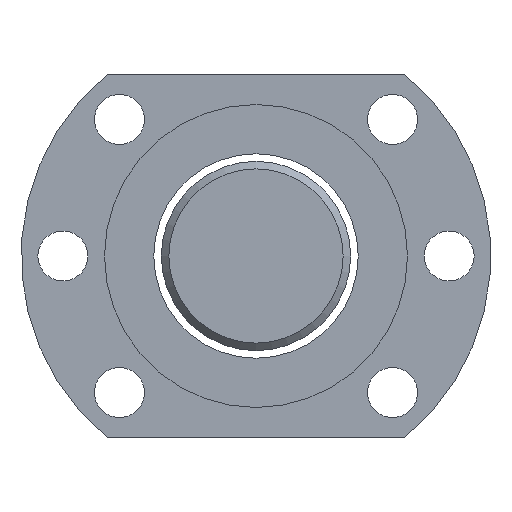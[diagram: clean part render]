
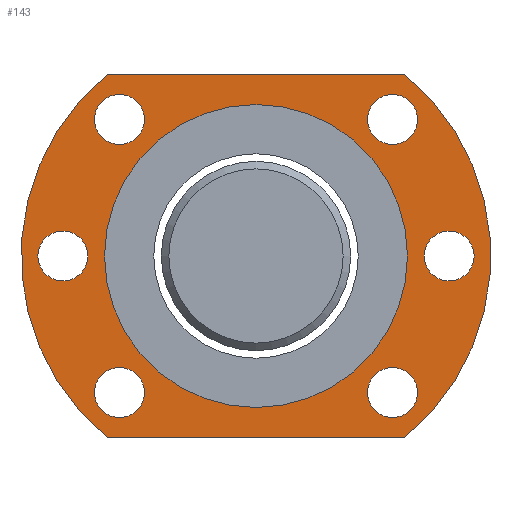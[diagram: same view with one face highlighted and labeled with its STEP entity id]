
A CAD part, left-side view. The second image highlights one B-rep face of the part: STEP entity #143.
In plain terms, the highlighted planar face has unit normal (-1, 0, 0).
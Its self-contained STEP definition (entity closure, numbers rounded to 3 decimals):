
#115=LINE('',#622,#123);
#116=LINE('',#626,#124);
#123=VECTOR('',#520,1.);
#124=VECTOR('',#523,1.);
#132=PLANE('',#452);
#143=ADVANCED_FACE('',(#189,#190,#191,#192,#193,#194,#195,#196),#132,.T.);
#189=FACE_BOUND('',#233,.T.);
#190=FACE_BOUND('',#234,.T.);
#191=FACE_BOUND('',#235,.T.);
#192=FACE_BOUND('',#236,.T.);
#193=FACE_BOUND('',#237,.T.);
#194=FACE_BOUND('',#238,.T.);
#195=FACE_BOUND('',#239,.T.);
#196=FACE_BOUND('',#240,.T.);
#233=EDGE_LOOP('',(#286));
#234=EDGE_LOOP('',(#287));
#235=EDGE_LOOP('',(#288,#289,#290,#291));
#236=EDGE_LOOP('',(#292));
#237=EDGE_LOOP('',(#293));
#238=EDGE_LOOP('',(#294));
#239=EDGE_LOOP('',(#295));
#240=EDGE_LOOP('',(#296));
#286=ORIENTED_EDGE('',*,*,#379,.T.);
#287=ORIENTED_EDGE('',*,*,#368,.F.);
#288=ORIENTED_EDGE('',*,*,#380,.T.);
#289=ORIENTED_EDGE('',*,*,#381,.T.);
#290=ORIENTED_EDGE('',*,*,#382,.T.);
#291=ORIENTED_EDGE('',*,*,#383,.T.);
#292=ORIENTED_EDGE('',*,*,#384,.F.);
#293=ORIENTED_EDGE('',*,*,#385,.F.);
#294=ORIENTED_EDGE('',*,*,#386,.F.);
#295=ORIENTED_EDGE('',*,*,#387,.T.);
#296=ORIENTED_EDGE('',*,*,#388,.T.);
#338=VERTEX_POINT('',#594);
#349=VERTEX_POINT('',#618);
#350=VERTEX_POINT('',#620);
#351=VERTEX_POINT('',#621);
#352=VERTEX_POINT('',#623);
#353=VERTEX_POINT('',#625);
#354=VERTEX_POINT('',#628);
#355=VERTEX_POINT('',#630);
#356=VERTEX_POINT('',#632);
#357=VERTEX_POINT('',#634);
#358=VERTEX_POINT('',#636);
#368=EDGE_CURVE('',#338,#338,#402,.T.);
#379=EDGE_CURVE('',#349,#349,#411,.T.);
#380=EDGE_CURVE('',#350,#351,#412,.T.);
#381=EDGE_CURVE('',#351,#352,#115,.T.);
#382=EDGE_CURVE('',#352,#353,#413,.T.);
#383=EDGE_CURVE('',#353,#350,#116,.T.);
#384=EDGE_CURVE('',#354,#354,#414,.T.);
#385=EDGE_CURVE('',#355,#355,#415,.T.);
#386=EDGE_CURVE('',#356,#356,#416,.T.);
#387=EDGE_CURVE('',#357,#357,#417,.T.);
#388=EDGE_CURVE('',#358,#358,#418,.T.);
#402=CIRCLE('',#433,20.);
#411=CIRCLE('',#444,3.3);
#412=CIRCLE('',#445,31.);
#413=CIRCLE('',#446,31.);
#414=CIRCLE('',#447,3.3);
#415=CIRCLE('',#448,3.3);
#416=CIRCLE('',#449,3.3);
#417=CIRCLE('',#450,3.3);
#418=CIRCLE('',#451,3.3);
#433=AXIS2_PLACEMENT_3D('',#593,#492,#493);
#444=AXIS2_PLACEMENT_3D('',#617,#516,#517);
#445=AXIS2_PLACEMENT_3D('',#619,#518,#519);
#446=AXIS2_PLACEMENT_3D('',#624,#521,#522);
#447=AXIS2_PLACEMENT_3D('',#627,#524,#525);
#448=AXIS2_PLACEMENT_3D('',#629,#526,#527);
#449=AXIS2_PLACEMENT_3D('',#631,#528,#529);
#450=AXIS2_PLACEMENT_3D('',#633,#530,#531);
#451=AXIS2_PLACEMENT_3D('',#635,#532,#533);
#452=AXIS2_PLACEMENT_3D('',#637,#534,#535);
#492=DIRECTION('',(-1.,0.,0.));
#493=DIRECTION('',(0.,0.,-1.));
#516=DIRECTION('',(1.,0.,0.));
#517=DIRECTION('',(0.,0.,1.));
#518=DIRECTION('',(-1.,0.,0.));
#519=DIRECTION('',(0.,0.,-1.));
#520=DIRECTION('',(0.,-1.,0.));
#521=DIRECTION('',(-1.,0.,0.));
#522=DIRECTION('',(0.,0.,-1.));
#523=DIRECTION('',(0.,1.,0.));
#524=DIRECTION('',(-1.,0.,0.));
#525=DIRECTION('',(0.,0.,1.));
#526=DIRECTION('',(-1.,0.,0.));
#527=DIRECTION('',(0.,0.,1.));
#528=DIRECTION('',(-1.,0.,0.));
#529=DIRECTION('',(0.,0.,1.));
#530=DIRECTION('',(1.,0.,0.));
#531=DIRECTION('',(0.,0.,1.));
#532=DIRECTION('',(1.,0.,0.));
#533=DIRECTION('',(0.,0.,1.));
#534=DIRECTION('',(-1.,0.,0.));
#535=DIRECTION('',(0.,0.,1.));
#593=CARTESIAN_POINT('',(-65.485,-52.353,-3.633));
#594=CARTESIAN_POINT('',(-65.485,-52.353,-23.633));
#617=CARTESIAN_POINT('',(-65.485,-77.853,-3.633));
#618=CARTESIAN_POINT('',(-65.485,-77.853,-0.333));
#619=CARTESIAN_POINT('',(-65.485,-52.353,-3.633));
#620=CARTESIAN_POINT('',(-65.485,-32.731,20.367));
#621=CARTESIAN_POINT('',(-65.485,-32.731,-27.633));
#622=CARTESIAN_POINT('',(-65.485,-32.731,-27.633));
#623=CARTESIAN_POINT('',(-65.485,-71.974,-27.633));
#624=CARTESIAN_POINT('',(-65.485,-52.353,-3.633));
#625=CARTESIAN_POINT('',(-65.485,-71.974,20.367));
#626=CARTESIAN_POINT('',(-65.485,-71.974,20.367));
#627=CARTESIAN_POINT('',(-65.485,-26.853,-3.633));
#628=CARTESIAN_POINT('',(-65.485,-26.853,-0.333));
#629=CARTESIAN_POINT('',(-65.485,-34.322,14.398));
#630=CARTESIAN_POINT('',(-65.485,-34.322,17.698));
#631=CARTESIAN_POINT('',(-65.485,-34.322,-21.665));
#632=CARTESIAN_POINT('',(-65.485,-34.322,-18.365));
#633=CARTESIAN_POINT('',(-65.485,-70.384,-21.665));
#634=CARTESIAN_POINT('',(-65.485,-70.384,-18.365));
#635=CARTESIAN_POINT('',(-65.485,-70.384,14.398));
#636=CARTESIAN_POINT('',(-65.485,-70.384,17.698));
#637=CARTESIAN_POINT('',(-65.485,-52.353,-3.633));
